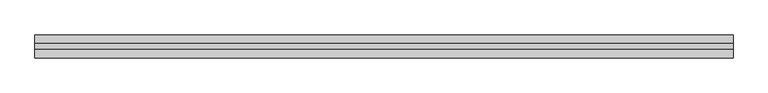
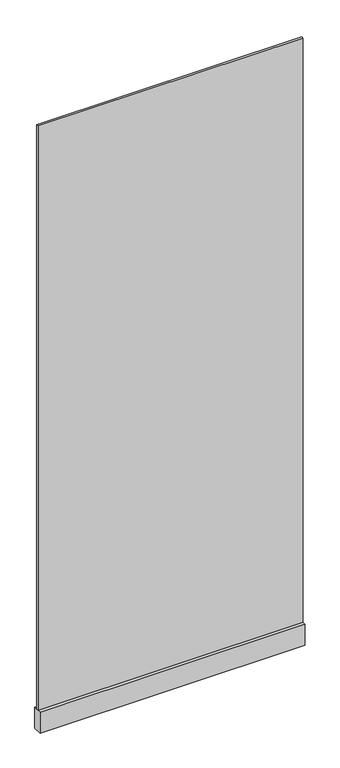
"""IFC4 building model written with IfcOpenShell, lengths in millimetres: plate geometry, r パネル FIX 下框付 : 框 H100."""

from ifc_helpers import new_model, si_unit, frame, origin, origin_with_axes, place, context, project, spatial, polyline, outline, extrude, source, transform, mapped, element, save


def plate_a40ee780(model_context):
    return source(origin(), model_context, "Body", "SweptSolid", [
        extrude(outline(polyline([(-600.9309555, -5.0), (-600.9309555, 5.0), (600.9309555, 5.0), (600.9309555, -5.0), (-600.9309555, -5.0)])), frame((0.0, 0.0, 100.0), z_axis=(0.0, 0.0, 1.0), x_axis=(1.0, 0.0, 0.0)), (0.0, 0.0, 1.0), 2800.0),
        extrude(outline(polyline([(-600.9309555, -20.0), (-600.9309555, 20.0), (600.9309555, 20.0), (600.9309555, -20.0), (-600.9309555, -20.0)])), origin_with_axes(), (0.0, 0.0, 1.0), 100.0),
    ])


if __name__ == "__main__":
    model = new_model("IFC4")
    model_context = context("Model", 3, world=origin())
    ifc_project = project(units=[si_unit("LENGTHUNIT", "METRE", prefix="MILLI")], contexts=[model_context])
    site = spatial("IfcSite", under=ifc_project)
    building = spatial("IfcBuilding", under=site)
    placement = place(None, origin())
    plate_shape = plate_a40ee780(model_context)
    element("IfcPlate", 1, ObjectType="r パネル FIX 下框付 : 框 H100", at=placement, inside=building, context=model_context, shape_type="MappedRepresentation", body=[
        mapped(plate_shape, transform((0.0, 0.0, 0.0), x_axis=(1.0, 0.0, 0.0), y_axis=(0.0, 1.0, 0.0), z_axis=(0.0, 0.0, 1.0))),
    ])
    save(model, "model.ifc")
